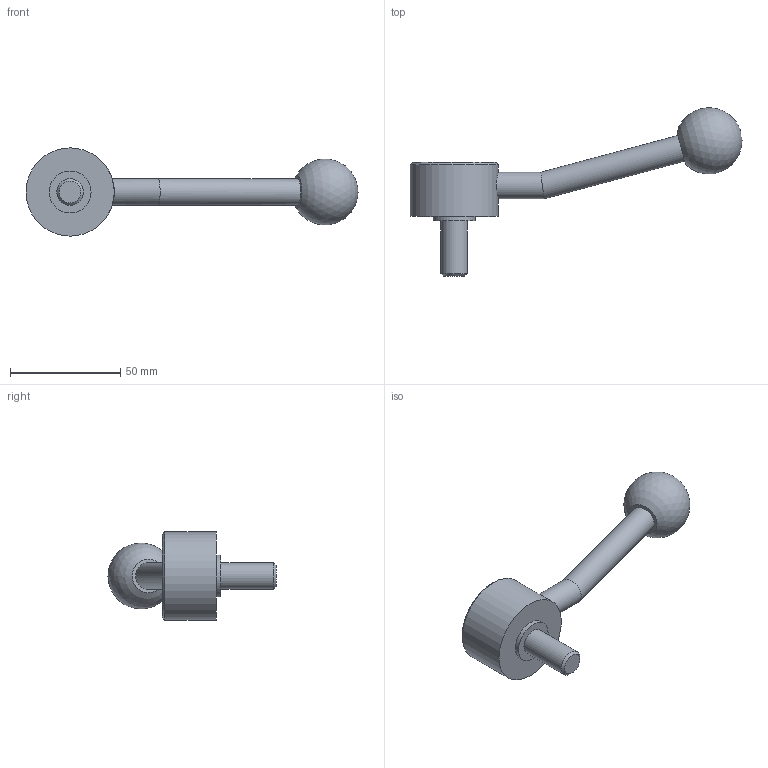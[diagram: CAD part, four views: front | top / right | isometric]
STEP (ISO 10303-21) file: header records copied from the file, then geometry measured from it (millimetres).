
FILE_DESCRIPTION( ( 'STEP AP203' ), '1' );
FILE_NAME( 'C:/Temp/Ganter_Step_05_03_2020/data/2_1/gn_125/gn_125_ms/gn_125_ms_e/Flat Adjustable Lever GN 125-40-M12-25-E.stp', '2020-03-05T11:01:01', ( 'License CC BY-ND 4.0' ), ( 'CADENAS' ), ' ', 'PARTsolutions', ' ' );
FILE_SCHEMA( ( 'CONFIG_CONTROL_DESIGN' ) );
Length unit declared in the file: millimetre
Products named in the file (1): _Flat Adjustable Lever GN 125-40-M12-25-E
Bounding box: 150.51 x 76.18 x 40 mm (x, y, z)
Volume: 57558.8 mm3; surface area: 12392.6 mm2
Topology: 1 solids, 1 shells, 15 faces, 25 edges, 16 vertices
Faces by surface type: cylinder 6, plane 6, cone 2, sphere 1
Full cylindrical faces by diameter (mm): 12 x3, 19 x1, 28 x1, 40 x1
Entity records: 422 total; most frequent: CARTESIAN_POINT 128, DIRECTION 58, AXIS2_PLACEMENT_3D 29, EDGE_LOOP 28, ORIENTED_EDGE 28, FACE_OUTER_BOUND 21, ADVANCED_FACE 15, VERTEX_POINT 15
